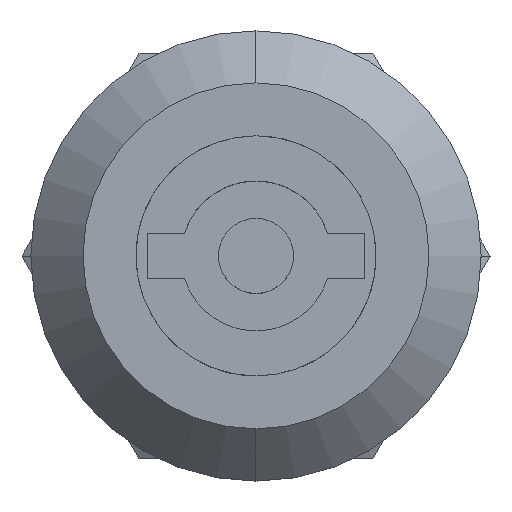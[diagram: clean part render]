
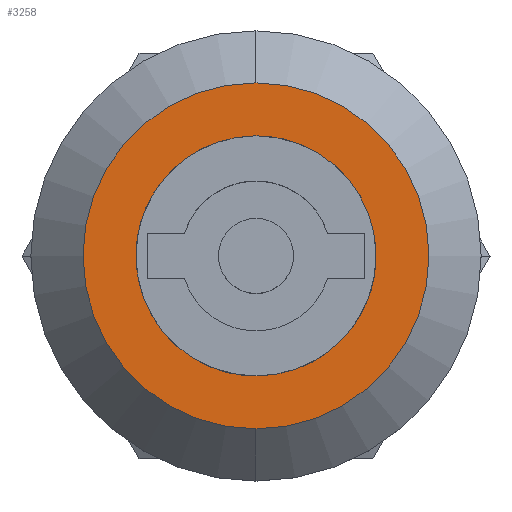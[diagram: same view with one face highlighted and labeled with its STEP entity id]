
A CAD part, top view. The second image highlights one B-rep face of the part: STEP entity #3258.
In plain terms, the highlighted planar face has unit normal (0, 0, 1).
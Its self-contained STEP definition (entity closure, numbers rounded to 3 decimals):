
#1388 = DIRECTION ( 'NONE',  ( 0., 1., 0. ) ) ;
#1389 = DIRECTION ( 'NONE',  ( 0., 0., -1. ) ) ;
#1390 = CARTESIAN_POINT ( 'NONE',  ( 0., 0., 5. ) ) ;
#1391 = AXIS2_PLACEMENT_3D ( 'NONE', #1433, #1432, #1431 ) ;
#1392 = CARTESIAN_POINT ( 'NONE',  ( 0., 8., 5. ) ) ;
#1393 = CARTESIAN_POINT ( 'NONE',  ( 5.333, 8., 5. ) ) ;
#1394 = CARTESIAN_POINT ( 'NONE',  ( 8., 4., 5. ) ) ;
#1395 = CARTESIAN_POINT ( 'NONE',  ( 8., 0., 5. ) ) ;
#1396 = CARTESIAN_POINT ( 'NONE',  ( 8., -4., 5. ) ) ;
#1397 = CARTESIAN_POINT ( 'NONE',  ( 5.333, -8., 5. ) ) ;
#1398 = CARTESIAN_POINT ( 'NONE',  ( 0., -8., 5. ) ) ;
#1399 = PLANE ( 'NONE',  #1391 ) ;
#1400 =( BOUNDED_CURVE ( )  B_SPLINE_CURVE ( 3, ( #1398, #1397, #1396, #1395, #1394, #1393, #1392 ),
 .UNSPECIFIED., .F., .T. ) 
 B_SPLINE_CURVE_WITH_KNOTS ( ( 4, 3, 4 ),
 ( 0.25, 0.5, 0.75 ),
 .UNSPECIFIED. ) 
 CURVE ( )  GEOMETRIC_REPRESENTATION_ITEM ( )  RATIONAL_B_SPLINE_CURVE ( ( 0.5, 0.5, 0.667, 1., 0.667, 0.5, 0.5 ) ) 
 REPRESENTATION_ITEM ( '' )  );
#1401 = AXIS2_PLACEMENT_3D ( 'NONE', #1390, #1389, #1388 ) ;
#1404 = CIRCLE ( 'NONE', #1401, 11.525 ) ;
#1405 = FACE_BOUND ( 'NONE', #3253, .T. ) ;
#1406 = FACE_OUTER_BOUND ( 'NONE', #3241, .T. ) ;
#1431 = DIRECTION ( 'NONE',  ( 1., 0., 0. ) ) ;
#1432 = DIRECTION ( 'NONE',  ( 0., 0., 1. ) ) ;
#1433 = CARTESIAN_POINT ( 'NONE',  ( -11.525, -11.525, 5. ) ) ;
#1821 = CARTESIAN_POINT ( 'NONE',  ( 0., 8., 5. ) ) ;
#1878 = CARTESIAN_POINT ( 'NONE',  ( 0., -11.525, 5. ) ) ;
#1905 = CARTESIAN_POINT ( 'NONE',  ( 0., -8., 5. ) ) ;
#1917 = CARTESIAN_POINT ( 'NONE',  ( 0., 11.525, 5. ) ) ;
#1924 = CARTESIAN_POINT ( 'NONE',  ( 0., -8., 5. ) ) ;
#1925 = CARTESIAN_POINT ( 'NONE',  ( -5.333, -8., 5. ) ) ;
#1926 = CARTESIAN_POINT ( 'NONE',  ( -8., -4., 5. ) ) ;
#1927 = CARTESIAN_POINT ( 'NONE',  ( -8., 0., 5. ) ) ;
#1928 = CARTESIAN_POINT ( 'NONE',  ( -8., 4., 5. ) ) ;
#1929 = CARTESIAN_POINT ( 'NONE',  ( -5.333, 8., 5. ) ) ;
#1930 = CARTESIAN_POINT ( 'NONE',  ( 0., 8., 5. ) ) ;
#1933 =( BOUNDED_CURVE ( )  B_SPLINE_CURVE ( 3, ( #1930, #1929, #1928, #1927, #1926, #1925, #1924 ),
 .UNSPECIFIED., .F., .T. ) 
 B_SPLINE_CURVE_WITH_KNOTS ( ( 4, 3, 4 ),
 ( 0.75, 1., 1.25 ),
 .UNSPECIFIED. ) 
 CURVE ( )  GEOMETRIC_REPRESENTATION_ITEM ( )  RATIONAL_B_SPLINE_CURVE ( ( 0.5, 0.5, 0.667, 1., 0.667, 0.5, 0.5 ) ) 
 REPRESENTATION_ITEM ( '' )  );
#1945 = AXIS2_PLACEMENT_3D ( 'NONE', #1991, #1980, #1979 ) ;
#1979 = DIRECTION ( 'NONE',  ( 0., 1., 0. ) ) ;
#1980 = DIRECTION ( 'NONE',  ( 0., 0., -1. ) ) ;
#1988 = CIRCLE ( 'NONE', #1945, 11.525 ) ;
#1991 = CARTESIAN_POINT ( 'NONE',  ( 0., 0., 5. ) ) ;
#3238 = ORIENTED_EDGE ( 'NONE', *, *, #3643, .F. ) ;
#3239 = ORIENTED_EDGE ( 'NONE', *, *, #3257, .F. ) ;
#3241 = EDGE_LOOP ( 'NONE', ( #3238, #3239 ) ) ;
#3251 = ORIENTED_EDGE ( 'NONE', *, *, #3620, .F. ) ;
#3252 = ORIENTED_EDGE ( 'NONE', *, *, #3256, .F. ) ;
#3253 = EDGE_LOOP ( 'NONE', ( #3252, #3251 ) ) ;
#3256 = EDGE_CURVE ( 'NONE', #3605, #3562, #1400, .T. ) ;
#3257 = EDGE_CURVE ( 'NONE', #3611, #3603, #1404, .T. ) ;
#3258 = ADVANCED_FACE ( 'NONE', ( #1406, #1405 ), #1399, .T. ) ;
#3562 = VERTEX_POINT ( 'NONE', #1821 ) ;
#3603 = VERTEX_POINT ( 'NONE', #1917 ) ;
#3605 = VERTEX_POINT ( 'NONE', #1905 ) ;
#3611 = VERTEX_POINT ( 'NONE', #1878 ) ;
#3620 = EDGE_CURVE ( 'NONE', #3562, #3605, #1933, .T. ) ;
#3643 = EDGE_CURVE ( 'NONE', #3603, #3611, #1988, .T. ) ;
